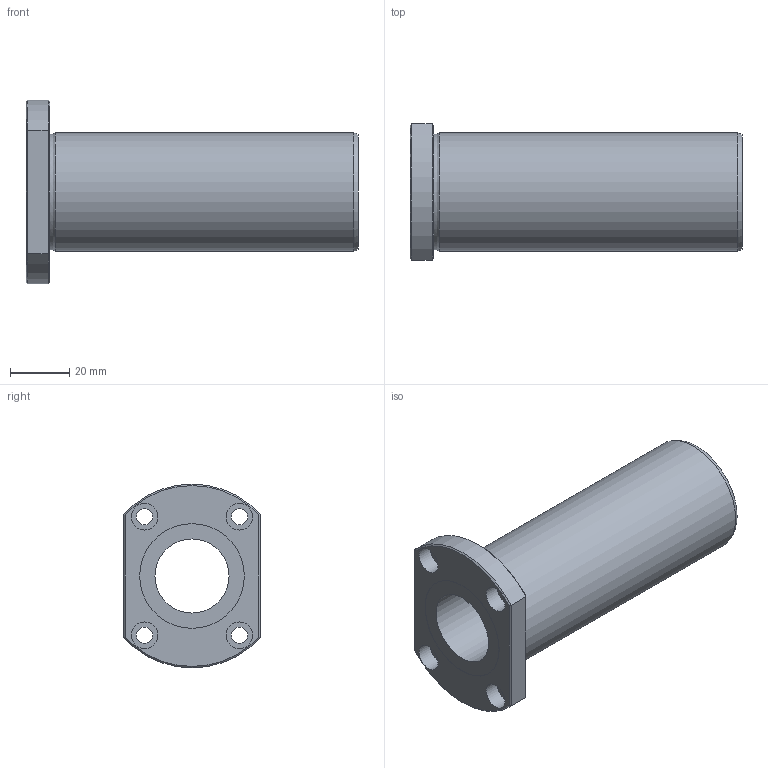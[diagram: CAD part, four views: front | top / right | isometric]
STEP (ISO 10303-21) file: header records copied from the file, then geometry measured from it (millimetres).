
FILE_DESCRIPTION((''),'2;1');
FILE_NAME('D:\製品 (図面)\カタログ用3D\リニアベアリング関連\STEP形式\LFDT\LFDT25B.stp','2010-06-03T09:46:31',('Tsuchiya'),(''),'Autodesk Inventor 10','Autodesk Inventor 10','');
FILE_SCHEMA(('AUTOMOTIVE_DESIGN { 1 0 10303 214 1 1 1 1 }'));
Length unit declared in the file: millimetre
Products named in the file (1): LFDT25B
Bounding box: 112 x 46 x 62 mm (x, y, z)
Volume: 94320.7 mm3; surface area: 27989.6 mm2
Topology: 1 solids, 1 shells, 35 faces, 68 edges, 42 vertices
Faces by surface type: plane 15, cylinder 14, cone 4, torus 1, bspline 1
Full cylindrical faces by diameter (mm): 5.5 x4, 9 x4, 25 x1, 35.3 x2, 40 x1
Entity records: 935 total; most frequent: CARTESIAN_POINT 218, DIRECTION 150, ORIENTED_EDGE 108, AXIS2_PLACEMENT_3D 69, EDGE_LOOP 66, EDGE_CURVE 54, VERTEX_POINT 42, FACE_OUTER_BOUND 35
